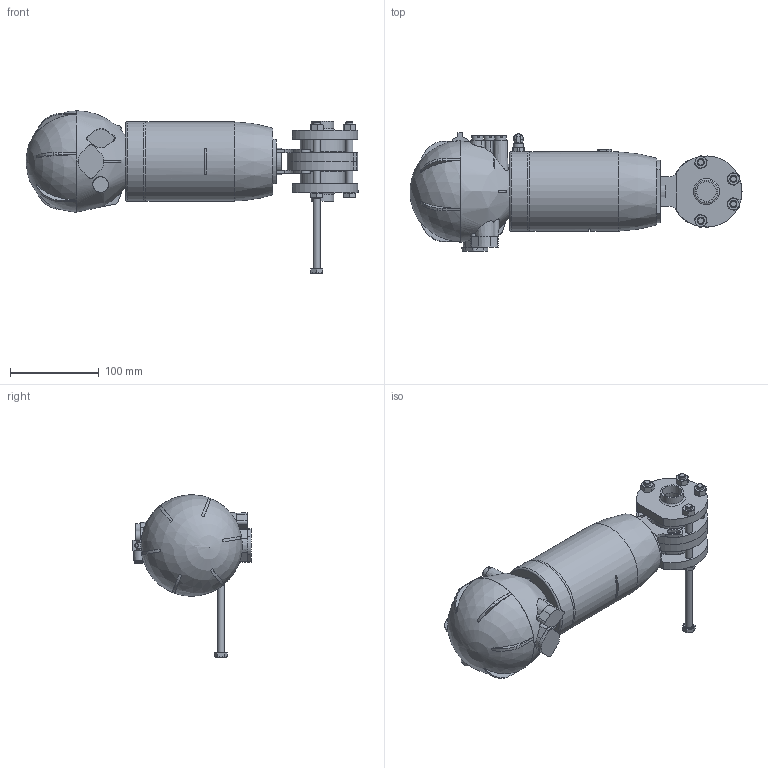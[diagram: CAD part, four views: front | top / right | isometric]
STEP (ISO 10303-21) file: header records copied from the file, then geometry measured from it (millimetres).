
FILE_DESCRIPTION(/* description */ ('ZVF V.FARF.DN25.4X1.65 WAF4 MACH83 SE NC 316 EPDM'),/* implementation_level */ '2;1');
FILE_NAME(/* name */ 'C:\_DED_PWS\MARZ-M\DB\B\EAA\BEAAD9100BEBA-00^SAGOMA.step',/* time_stamp */ '2025-08-06T11:28:46+02:00',/* author */ (''),/* organization */ (''),/* preprocessor_version */ 'ST-DEVELOPER v20',/* originating_system */ 'Autodesk Inventor 2022',/* authorisation */ '');
FILE_SCHEMA (('CONFIG_CONTROL_DESIGN'));
Length unit declared in the file: millimetre
Products named in the file (8): BEAAD9100BEBA; 3DAAJGIOAA007; 3DAAZVFAA052; Supporto-farf-DN25-65-; UNI 5588 - M8; UNI 5739 - M8 x 80; TWD030025BBA; TPM022100BBA
Assembly tree (16 placements, depth 2):
  BEAAD9100BEBA
    3DAAJGIOAA007
    3DAAZVFAA052
    Supporto-farf-DN25-65-
    UNI 5588 - M8  x4
    UNI 5739 - M8 x 80  x5
    TPM022100BBA  x2
    TWD030025BBA  x2
Bounding box: 373.46 x 133 x 182.57 mm (x, y, z)
Volume: 2135770.3 mm3; surface area: 214439.9 mm2
Topology: 16 solids, 16 shells, 1197 faces, 3138 edges, 2042 vertices
Faces by surface type: plane 815, cylinder 162, cone 146, bspline 56, torus 17, sphere 1
Full cylindrical faces by diameter (mm): 2 x1, 3 x1, 4 x1, 4.917 x11, 6 x2, 6.2 x12, 6.647 x4, 7 x5, 7.8 x1, 8 x5, 8.2 x12, 8.3 x1, 8.566 x1, 10 x2, 10.376 x1, 11 x1, 11.5 x1, 11.63 x5, 13 x4, 18 x1, 18.5 x2, 22.1 x2, 24.5 x1, 25 x1, 25.4 x2, 26 x1, 30 x1, 30.3 x1, 50 x2, 82.8 x1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
Entity records: 35884 total; most frequent: CARTESIAN_POINT 8566, DIRECTION 5755, ORIENTED_EDGE 5470, EDGE_CURVE 2735, AXIS2_PLACEMENT_3D 2344, VERTEX_POINT 1804, EDGE_LOOP 1143, LINE 1067
